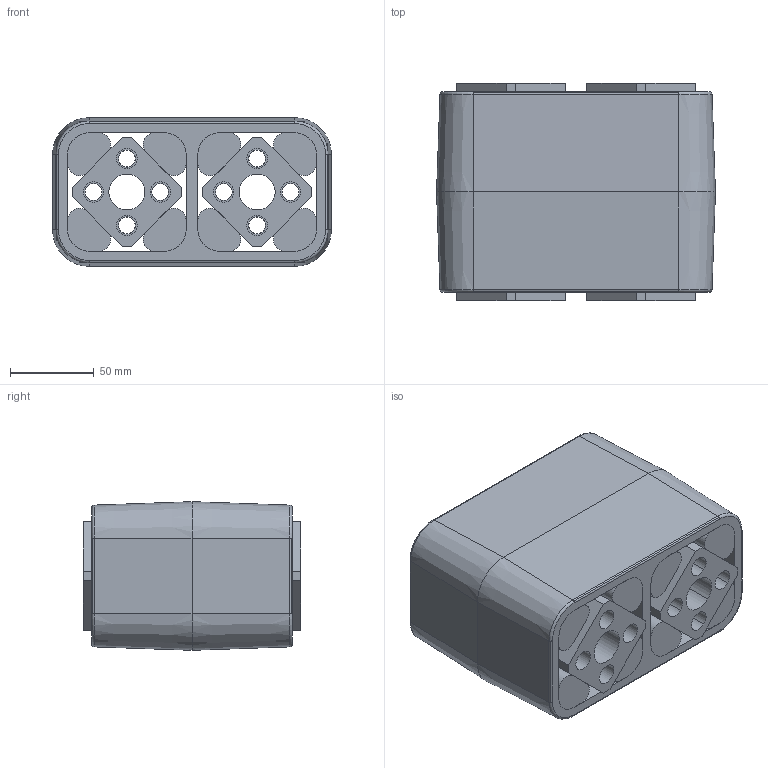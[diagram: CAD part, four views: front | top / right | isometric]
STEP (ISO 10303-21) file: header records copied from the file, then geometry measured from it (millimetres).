
FILE_DESCRIPTION((''),'2;1');
FILE_NAME('\\rostaofc\data\uw\save\daten_f\Normprogramm 3D\Gummifederelemente\DO-A50x120_01041016.stp','2005-05-11T13:41:06',('uw'),(''),'Autodesk Inventor 8','Autodesk Inventor 8','');
FILE_SCHEMA(('AUTOMOTIVE_DESIGN { 1 0 10303 214 1 1 1 1 }'));
Length unit declared in the file: millimetre
Products named in the file (4): ROSTA-Gummifederelement DO-A 50x120; Aussengehäuse DO50x120; 4.4.4310-002; 4.4.4310-003
Assembly tree (11 placements, depth 2):
  ROSTA-Gummifederelement DO-A 50x120
    Aussengehäuse DO50x120
    4.4.4310-002  x2
    4.4.4310-003  x8
Bounding box: 167 x 130 x 89 mm (x, y, z)
Volume: 1403739.1 mm3; surface area: 322121.9 mm2
Topology: 11 solids, 11 shells, 290 faces, 668 edges, 416 vertices
Faces by surface type: plane 94, cylinder 88, bspline 76, cone 24, torus 8
Entity records: 5131 total; most frequent: CARTESIAN_POINT 1355, DIRECTION 812, ORIENTED_EDGE 736, EDGE_CURVE 368, AXIS2_PLACEMENT_3D 309, VERTEX_POINT 224, VECTOR 194, LINE 194
